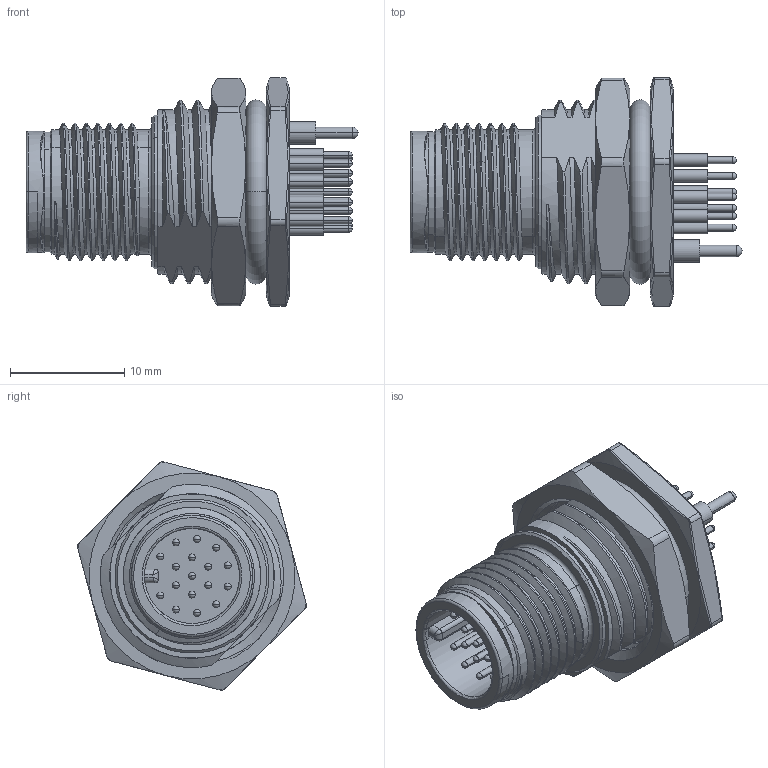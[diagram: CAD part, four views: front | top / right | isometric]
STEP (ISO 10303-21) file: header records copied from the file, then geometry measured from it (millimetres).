
FILE_DESCRIPTION((''),'2;1');
FILE_NAME('MSAS-XXPMMP-SF8002_SW0001','2021-03-17T',('K190165'),(''),'PRO/ENGINEER BY PARAMETRIC TECHNOLOGY CORPORATION, 2013050','PRO/ENGINEER BY PARAMETRIC TECHNOLOGY CORPORATION, 2013050','');
FILE_SCHEMA(('CONFIG_CONTROL_DESIGN'));
Length unit declared in the file: millimetre
Products named in the file (1): MSAS-XXPMMP-SF8002_SW0001
Bounding box: 29 x 19.98 x 19.94 mm (x, y, z)
Volume: 3250.7 mm3; surface area: 3076.6 mm2
Topology: 1 solids, 1 shells, 633 faces, 1647 edges, 1020 vertices
Faces by surface type: plane 175, cylinder 171, bspline 91, extrusion 80, sphere 70, cone 36, torus 10
Entity records: 29280 total; most frequent: CARTESIAN_POINT 15008, ORIENTED_EDGE 3154, DIRECTION 2501, EDGE_CURVE 1577, VERTEX_POINT 1020, AXIS2_PLACEMENT_3D 885, VECTOR 731, EDGE_LOOP 717
